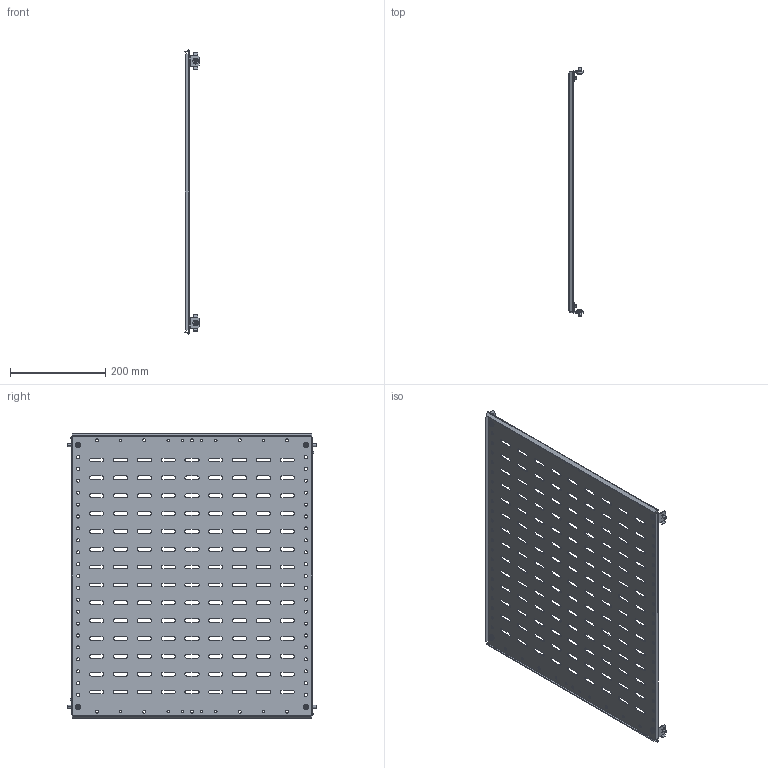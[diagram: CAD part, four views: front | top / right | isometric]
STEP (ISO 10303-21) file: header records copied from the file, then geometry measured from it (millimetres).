
FILE_DESCRIPTION (( 'STEP AP214' ), '1' );
FILE_NAME ('FO-00-SWF-060-060 Ïåðåãîðîäêà ñåêöèîíèðîâàíèÿ çàäíÿÿ 600õ600 ìì.STEP', '2025-08-12T08:57:14', ( '' ), ( '' ), 'SwSTEP 2.0', 'SolidWorks 2023', '' );
FILE_SCHEMA (( 'AUTOMOTIVE_DESIGN' ));
Length unit declared in the file: millimetre
Products named in the file (1): FO-00-SWF-060-060 Перегородка секционирования задняя 600х600 мм
Bounding box: 30.52 x 524 x 597.66 mm (x, y, z)
Volume: 443848.3 mm3; surface area: 602051 mm2
Topology: 1 solids, 5 shells, 1150 faces, 3292 edges, 2172 vertices
Faces by surface type: cylinder 682, plane 412, torus 24, cone 24, sphere 8
Entity records: 38955 total; most frequent: DIRECTION 6906, CARTESIAN_POINT 6883, ORIENTED_EDGE 6584, EDGE_CURVE 3292, AXIS2_PLACEMENT_3D 2531, VERTEX_POINT 2172, VECTOR 1844, LINE 1844
